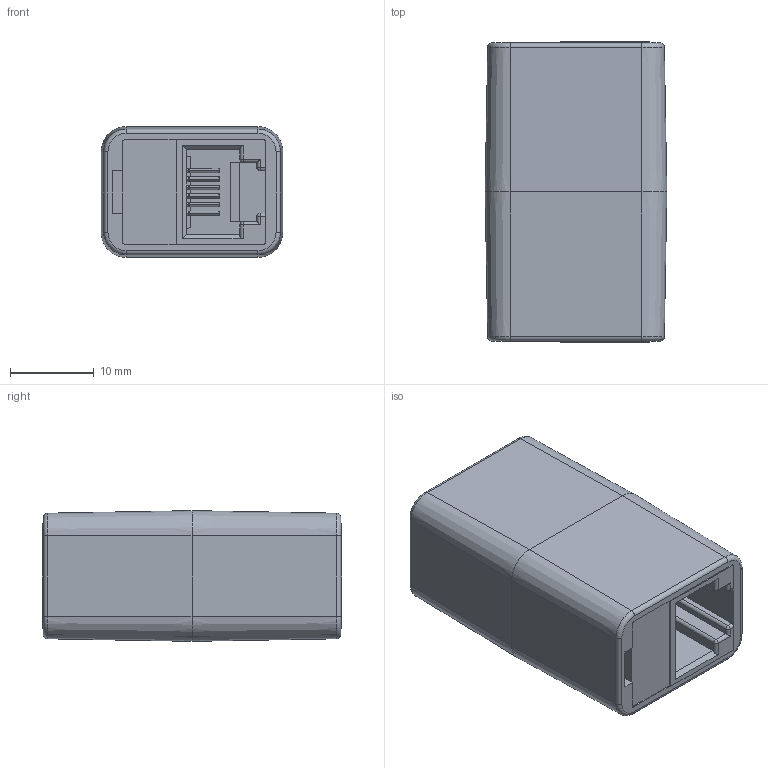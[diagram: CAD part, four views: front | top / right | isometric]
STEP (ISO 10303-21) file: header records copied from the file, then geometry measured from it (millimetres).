
FILE_DESCRIPTION(('FreeCAD Model'),'2;1');
FILE_NAME('Open CASCADE Shape Model','2022-03-21T15:07:59',( 'Engenharia Metaltex'),('Metaltex'), 'Open CASCADE STEP processor 7.5','FreeCAD','Unknown');
FILE_SCHEMA(('AUTOMOTIVE_DESIGN { 1 0 10303 214 1 1 1 1 }'));
Products named in the file (1): Body001
Bounding box: 21.7 x 35.81 x 15.6 mm (x, y, z)
Volume: 9124.1 mm3; surface area: 6405.8 mm2
Topology: 14 solids, 14 shells, 500 faces, 3502 edges, 9952 vertices
Faces by surface type: plane 236, cylinder 192, sphere 56, cone 8, torus 8
Entity records: 64670 total; most frequent: CARTESIAN_POINT 23307, DIRECTION 7238, LINE 4188, VECTOR 4188, GEOMETRIC_CURVE_SET 2325, ORIENTED_EDGE 2292, PCURVE 2292, DEFINITIONAL_REPRESENTATION 2292
